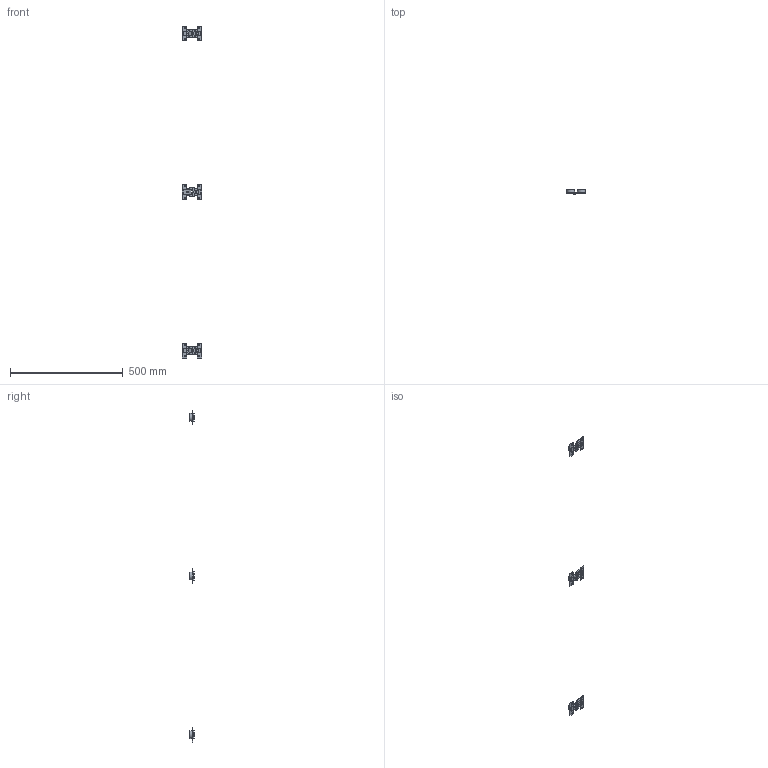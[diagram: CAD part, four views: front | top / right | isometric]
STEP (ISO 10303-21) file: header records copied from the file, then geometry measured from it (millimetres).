
FILE_DESCRIPTION( ( 'STEP AP214' ), '1' );
FILE_NAME( 'D:/Yug/2020/Sliding_&_Folding_Door_System/WingLine_L/Stay closed set & Centre Hinge/QC/9278742.stp', '2020-06-15T11:53:29', ( '' ), ( '' ), ' ', 'PARTsolutions', ' ' );
FILE_SCHEMA( ( 'AUTOMOTIVE_DESIGN { 1 0 10303 214 1 1 1 1 }' ) );
Length unit declared in the file: millimetre
Products named in the file (2): 9278742; _ 46787
Assembly tree (3 placements, depth 2):
  9278742
    _ 46787  x3
Bounding box: 88 x 20 x 1473 mm (x, y, z)
Volume: 101202.3 mm3; surface area: 42657.8 mm2
Topology: 3 solids, 3 shells, 234 faces, 654 edges, 417 vertices
Faces by surface type: plane 171, cylinder 63
Full cylindrical faces by diameter (mm): 3 x12, 4.92 x6, 5.1 x12, 35 x6
Entity records: 3109 total; most frequent: DIRECTION 431, CARTESIAN_POINT 417, ORIENTED_EDGE 402, EDGE_CURVE 201, AXIS2_PLACEMENT_3D 148, LINE 135, VECTOR 135, VERTEX_POINT 134
